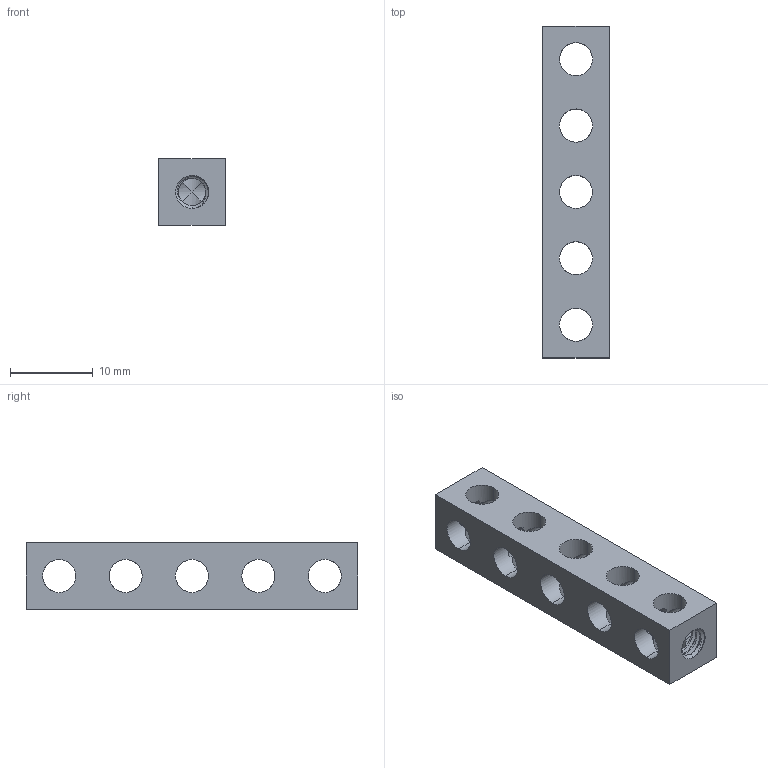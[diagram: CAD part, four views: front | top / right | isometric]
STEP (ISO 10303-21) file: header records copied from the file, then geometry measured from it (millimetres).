
FILE_DESCRIPTION (( 'STEP AP203' ), '1' );
FILE_NAME ('1106-0005-0040.STEP', '2018-03-23T14:54:38', ( '' ), ( '' ), 'SwSTEP 2.0', 'SolidWorks 2016', '' );
FILE_SCHEMA (( 'CONFIG_CONTROL_DESIGN' ));
Products named in the file (1): 1106-0005-0040
Bounding box: 8 x 40 x 8 mm (x, y, z)
Volume: 1640.4 mm3; surface area: 1985.7 mm2
Topology: 1 solids, 1 shells, 192 faces, 588 edges, 382 vertices
Faces by surface type: cylinder 146, bspline 34, cone 6, plane 6
Entity records: 44202 total; most frequent: CARTESIAN_POINT 40006, ORIENTED_EDGE 1176, EDGE_CURVE 588, DIRECTION 550, VERTEX_POINT 382, EDGE_LOOP 214, AXIS2_PLACEMENT_3D 211, FACE_OUTER_BOUND 192
